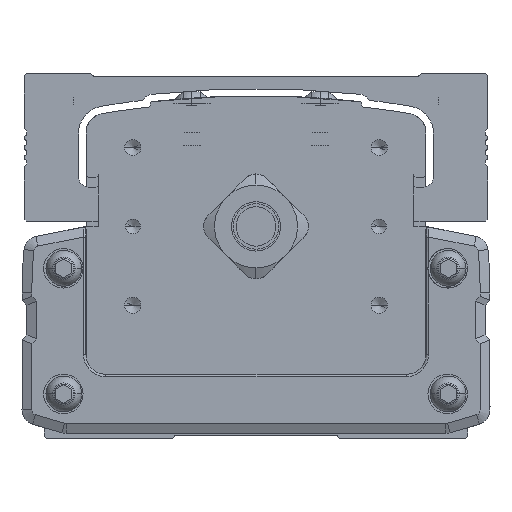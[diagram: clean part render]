
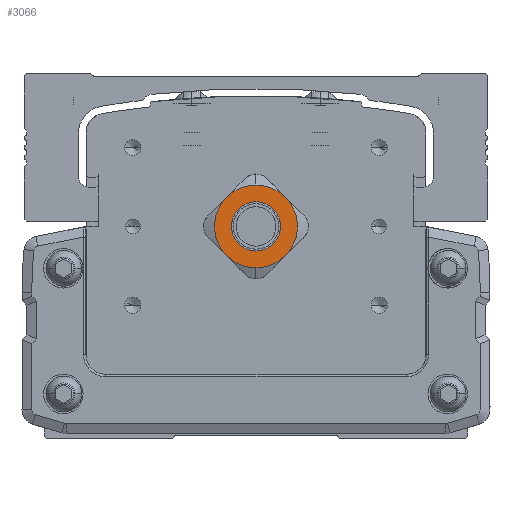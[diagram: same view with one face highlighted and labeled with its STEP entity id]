
A CAD part, front view. The second image highlights one B-rep face of the part: STEP entity #3066.
In plain terms, the highlighted planar face has unit normal (0, -1, 0).
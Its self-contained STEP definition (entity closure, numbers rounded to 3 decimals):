
#3066=ADVANCED_FACE('',(#7448,#7449),#7450,.F.);
#7448=FACE_OUTER_BOUND('',#14060,.T.);
#7449=FACE_BOUND('',#14061,.T.);
#7450=PLANE('',#14062);
#14060=EDGE_LOOP('',(#23799,#23800,#23801,#23802,#23803,#23804));
#14061=EDGE_LOOP('',(#23805,#23806));
#14062=AXIS2_PLACEMENT_3D('',#23807,#23808,#23809);
#23799=ORIENTED_EDGE('',*,*,#39110,.T.);
#23800=ORIENTED_EDGE('',*,*,#39111,.T.);
#23801=ORIENTED_EDGE('',*,*,#39112,.T.);
#23802=ORIENTED_EDGE('',*,*,#38571,.T.);
#23803=ORIENTED_EDGE('',*,*,#39113,.T.);
#23804=ORIENTED_EDGE('',*,*,#38357,.T.);
#23805=ORIENTED_EDGE('',*,*,#39114,.F.);
#23806=ORIENTED_EDGE('',*,*,#39115,.F.);
#23807=CARTESIAN_POINT('',(0.,-211.468,0.127));
#23808=DIRECTION('',(0.,1.0,0.));
#23809=DIRECTION('',(0.,0.,1.0));
#38357=EDGE_CURVE('',#46651,#46655,#46657,.T.);
#38571=EDGE_CURVE('',#47012,#47010,#47013,.T.);
#39110=EDGE_CURVE('',#46655,#47868,#47869,.T.);
#39111=EDGE_CURVE('',#47868,#47870,#47871,.T.);
#39112=EDGE_CURVE('',#47870,#47012,#47872,.T.);
#39113=EDGE_CURVE('',#47010,#46651,#47873,.T.);
#39114=EDGE_CURVE('',#47874,#47875,#47876,.T.);
#39115=EDGE_CURVE('',#47875,#47874,#47877,.T.);
#46651=VERTEX_POINT('',#58567);
#46655=VERTEX_POINT('',#58589);
#46657=CIRCLE('',#58602,8.413);
#47010=VERTEX_POINT('',#59115);
#47012=VERTEX_POINT('',#59128);
#47013=CIRCLE('',#59129,8.413);
#47868=VERTEX_POINT('',#60384);
#47869=CIRCLE('',#60385,8.413);
#47870=VERTEX_POINT('',#60386);
#47871=CIRCLE('',#60387,8.413);
#47872=CIRCLE('',#60388,8.413);
#47873=CIRCLE('',#60389,8.413);
#47874=VERTEX_POINT('',#60390);
#47875=VERTEX_POINT('',#60391);
#47876=CIRCLE('',#60392,4.625);
#47877=CIRCLE('',#60393,4.625);
#58567=CARTESIAN_POINT('',(0.,-211.468,-8.413));
#58589=CARTESIAN_POINT('',(5.949,-211.468,-5.949));
#58602=AXIS2_PLACEMENT_3D('',#70776,#70777,#70778);
#59115=CARTESIAN_POINT('',(-5.949,-211.468,-5.949));
#59128=CARTESIAN_POINT('',(-5.949,-211.468,5.949));
#59129=AXIS2_PLACEMENT_3D('',#71021,#71022,#71023);
#60384=CARTESIAN_POINT('',(5.949,-211.468,5.949));
#60385=AXIS2_PLACEMENT_3D('',#71718,#71719,#71720);
#60386=CARTESIAN_POINT('',(0.,-211.468,8.412));
#60387=AXIS2_PLACEMENT_3D('',#71721,#71722,#71723);
#60388=AXIS2_PLACEMENT_3D('',#71724,#71725,#71726);
#60389=AXIS2_PLACEMENT_3D('',#71727,#71728,#71729);
#60390=CARTESIAN_POINT('',(0.,-211.468,4.625));
#60391=CARTESIAN_POINT('',(0.,-211.468,-4.625));
#60392=AXIS2_PLACEMENT_3D('',#71730,#71731,#71732);
#60393=AXIS2_PLACEMENT_3D('',#71733,#71734,#71735);
#70776=CARTESIAN_POINT('',(0.,-211.468,0.));
#70777=DIRECTION('',(0.,-1.0,0.));
#70778=DIRECTION('',(0.,0.,1.0));
#71021=CARTESIAN_POINT('',(0.,-211.468,0.));
#71022=DIRECTION('',(0.,-1.0,0.));
#71023=DIRECTION('',(0.,0.,1.0));
#71718=CARTESIAN_POINT('',(0.,-211.468,0.));
#71719=DIRECTION('',(0.,-1.0,0.));
#71720=DIRECTION('',(0.,0.,1.0));
#71721=CARTESIAN_POINT('',(0.,-211.468,0.));
#71722=DIRECTION('',(0.,-1.0,0.));
#71723=DIRECTION('',(0.,0.,1.0));
#71724=CARTESIAN_POINT('',(0.,-211.468,0.));
#71725=DIRECTION('',(0.,-1.0,0.));
#71726=DIRECTION('',(0.,0.,1.0));
#71727=CARTESIAN_POINT('',(0.,-211.468,0.));
#71728=DIRECTION('',(0.,-1.0,0.));
#71729=DIRECTION('',(0.,0.,1.0));
#71730=CARTESIAN_POINT('',(0.,-211.468,0.));
#71731=DIRECTION('',(0.,-1.0,0.));
#71732=DIRECTION('',(0.,0.,-1.0));
#71733=CARTESIAN_POINT('',(0.,-211.468,0.));
#71734=DIRECTION('',(0.,-1.0,0.));
#71735=DIRECTION('',(0.,0.,-1.0));
